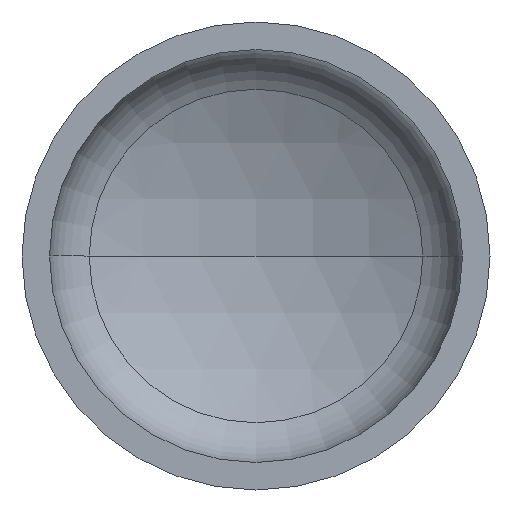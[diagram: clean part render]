
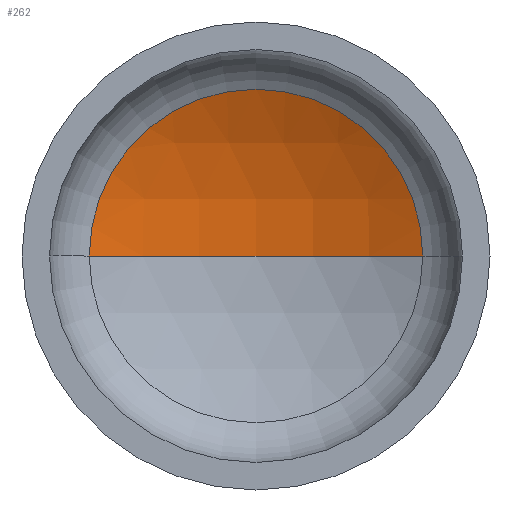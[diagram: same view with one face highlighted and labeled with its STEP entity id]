
A CAD part, front view. The second image highlights one B-rep face of the part: STEP entity #262.
In plain terms, the highlighted spherical face has radius 1360 mm.
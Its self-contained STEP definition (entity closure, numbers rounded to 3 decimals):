
#5 = ORIENTED_EDGE ( 'NONE', *, *, #340, .T. ) ;
#9 = DIRECTION ( 'NONE',  ( 0., 0., -1. ) ) ;
#21 = DIRECTION ( 'NONE',  ( -1., 0., 0. ) ) ;
#24 = EDGE_LOOP ( 'NONE', ( #73, #56, #5 ) ) ;
#43 = AXIS2_PLACEMENT_3D ( 'NONE', #157, #119, #320 ) ;
#48 = VERTEX_POINT ( 'NONE', #244 ) ;
#55 = AXIS2_PLACEMENT_3D ( 'NONE', #141, #147, #407 ) ;
#56 = ORIENTED_EDGE ( 'NONE', *, *, #346, .T. ) ;
#64 = DIRECTION ( 'NONE',  ( 0., 0., 1. ) ) ;
#73 = ORIENTED_EDGE ( 'NONE', *, *, #379, .F. ) ;
#86 = VERTEX_POINT ( 'NONE', #218 ) ;
#90 = FACE_OUTER_BOUND ( 'NONE', #24, .T. ) ;
#119 = DIRECTION ( 'NONE',  ( 0., 0., -1. ) ) ;
#127 = AXIS2_PLACEMENT_3D ( 'NONE', #349, #9, #21 ) ;
#141 = CARTESIAN_POINT ( 'NONE',  ( 0., 332.779, 0. ) ) ;
#142 = CIRCLE ( 'NONE', #388, 1360. ) ;
#147 = DIRECTION ( 'NONE',  ( 0., -1., 0. ) ) ;
#157 = CARTESIAN_POINT ( 'NONE',  ( 0., -884.835, 0. ) ) ;
#163 = VERTEX_POINT ( 'NONE', #322 ) ;
#191 = SPHERICAL_SURFACE ( 'NONE', #127, 1360. ) ;
#218 = CARTESIAN_POINT ( 'NONE',  ( 0., 475.165, 0. ) ) ;
#244 = CARTESIAN_POINT ( 'NONE',  ( -605.818, 332.779, 0. ) ) ;
#251 = CIRCLE ( 'NONE', #55, 605.818 ) ;
#262 = ADVANCED_FACE ( 'NONE', ( #90 ), #191, .F. ) ;
#296 = CIRCLE ( 'NONE', #43, 1360. ) ;
#303 = DIRECTION ( 'NONE',  ( 1., 0., 0. ) ) ;
#320 = DIRECTION ( 'NONE',  ( -1., 0., 0. ) ) ;
#322 = CARTESIAN_POINT ( 'NONE',  ( 605.818, 332.779, 0. ) ) ;
#340 = EDGE_CURVE ( 'NONE', #163, #48, #251, .T. ) ;
#346 = EDGE_CURVE ( 'NONE', #86, #163, #296, .T. ) ;
#349 = CARTESIAN_POINT ( 'NONE',  ( 0., -884.835, 0. ) ) ;
#358 = CARTESIAN_POINT ( 'NONE',  ( 0., -884.835, 0. ) ) ;
#379 = EDGE_CURVE ( 'NONE', #86, #48, #142, .T. ) ;
#388 = AXIS2_PLACEMENT_3D ( 'NONE', #358, #64, #303 ) ;
#407 = DIRECTION ( 'NONE',  ( 1., 0., 0. ) ) ;
